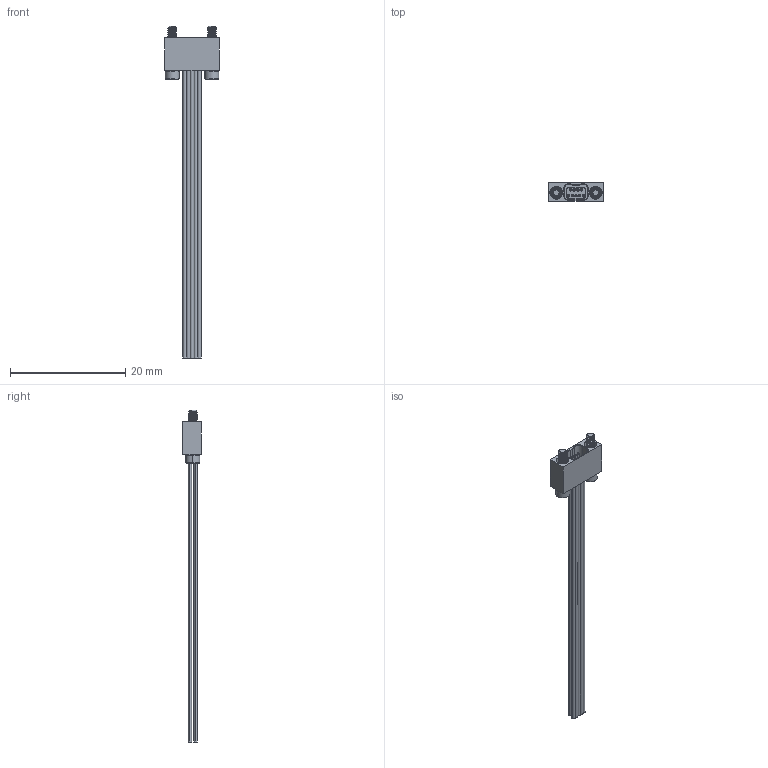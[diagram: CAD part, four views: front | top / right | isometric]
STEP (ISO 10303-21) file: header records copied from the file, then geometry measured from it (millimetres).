
FILE_DESCRIPTION (( 'STEP AP214' ), '1' );
FILE_NAME ('A29000-109 REV G.STEP', '2015-11-04T20:39:21', ( '' ), ( '' ), 'SwSTEP 2.0', 'SolidWorks 2015', '' );
FILE_SCHEMA (( 'AUTOMOTIVE_DESIGN' ));
Length unit declared in the file: inch
Products named in the file (1): A29000-109
Bounding box: 9.53 x 3.19 x 57.7 mm (x, y, z)
Volume: 284.5 mm3; surface area: 1409.8 mm2
Topology: 1 solids, 10 shells, 539 faces, 1277 edges, 818 vertices
Faces by surface type: plane 215, cylinder 180, bspline 54, torus 52, cone 38
Entity records: 20831 total; most frequent: CARTESIAN_POINT 8529, ORIENTED_EDGE 2554, DIRECTION 2497, EDGE_CURVE 1277, AXIS2_PLACEMENT_3D 924, VERTEX_POINT 818, LINE 649, VECTOR 649
